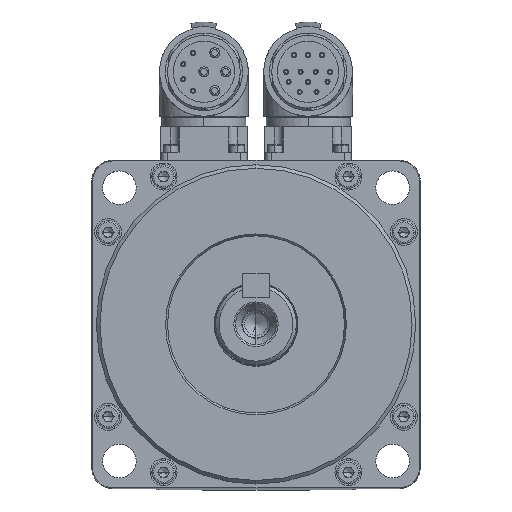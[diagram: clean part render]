
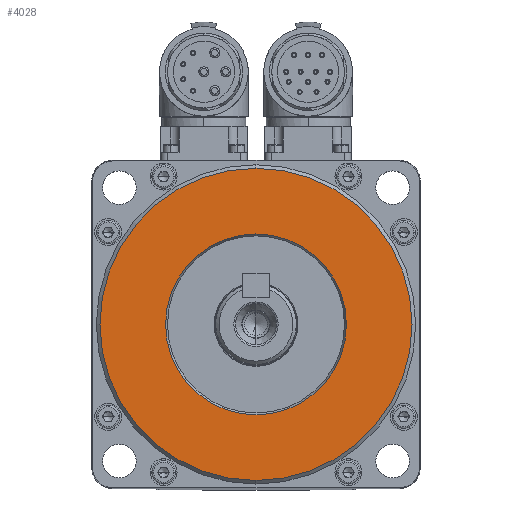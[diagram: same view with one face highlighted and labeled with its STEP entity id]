
A CAD part, top view. The second image highlights one B-rep face of the part: STEP entity #4028.
In plain terms, the highlighted planar face has unit normal (0, 0, 1).
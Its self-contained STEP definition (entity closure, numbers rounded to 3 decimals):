
#3416 = CIRCLE ( 'NONE', #15629, 46.433 ) ;
#4028 = ADVANCED_FACE ( 'NONE', ( #23018, #16016 ), #48908, .F. ) ;
#6019 = DIRECTION ( 'NONE',  ( 0., 1., 0. ) ) ;
#6149 = AXIS2_PLACEMENT_3D ( 'NONE', #28799, #54391, #29441 ) ;
#6222 = DIRECTION ( 'NONE',  ( 0., 1., 0. ) ) ;
#10735 = DIRECTION ( 'NONE',  ( 0., 0., -1. ) ) ;
#10962 = CARTESIAN_POINT ( 'NONE',  ( 0., 0., 75.864 ) ) ;
#12064 = ORIENTED_EDGE ( 'NONE', *, *, #35764, .T. ) ;
#13385 = CIRCLE ( 'NONE', #14805, 26.908 ) ;
#14805 = AXIS2_PLACEMENT_3D ( 'NONE', #21719, #61136, #6222 ) ;
#15618 = CARTESIAN_POINT ( 'NONE',  ( 0., 0., 75.864 ) ) ;
#15629 = AXIS2_PLACEMENT_3D ( 'NONE', #55268, #35102, #40384 ) ;
#15945 = VERTEX_POINT ( 'NONE', #30881 ) ;
#16016 = FACE_BOUND ( 'NONE', #55824, .T. ) ;
#18511 = EDGE_CURVE ( 'NONE', #64038, #37121, #41095, .T. ) ;
#19468 = ORIENTED_EDGE ( 'NONE', *, *, #45655, .T. ) ;
#20811 = DIRECTION ( 'NONE',  ( 0., 1., 0. ) ) ;
#21365 = VERTEX_POINT ( 'NONE', #48849 ) ;
#21719 = CARTESIAN_POINT ( 'NONE',  ( 0., 0., 75.864 ) ) ;
#23018 = FACE_OUTER_BOUND ( 'NONE', #41644, .T. ) ;
#25668 = DIRECTION ( 'NONE',  ( 0., 0., 1. ) ) ;
#26359 = EDGE_CURVE ( 'NONE', #37121, #64038, #13385, .T. ) ;
#28799 = CARTESIAN_POINT ( 'NONE',  ( 0., 0., 75.864 ) ) ;
#29441 = DIRECTION ( 'NONE',  ( 0., 1., 0. ) ) ;
#30881 = CARTESIAN_POINT ( 'NONE',  ( 0., -46.433, 75.864 ) ) ;
#30933 = CARTESIAN_POINT ( 'NONE',  ( 0., -26.908, 75.864 ) ) ;
#34293 = AXIS2_PLACEMENT_3D ( 'NONE', #10962, #10735, #20811 ) ;
#35102 = DIRECTION ( 'NONE',  ( 0., 0., 1. ) ) ;
#35764 = EDGE_CURVE ( 'NONE', #21365, #15945, #46562, .T. ) ;
#37121 = VERTEX_POINT ( 'NONE', #30933 ) ;
#37385 = ORIENTED_EDGE ( 'NONE', *, *, #26359, .T. ) ;
#40384 = DIRECTION ( 'NONE',  ( 0., 1., 0. ) ) ;
#41095 = CIRCLE ( 'NONE', #34293, 26.908 ) ;
#41644 = EDGE_LOOP ( 'NONE', ( #12064, #19468 ) ) ;
#45655 = EDGE_CURVE ( 'NONE', #15945, #21365, #3416, .T. ) ;
#46562 = CIRCLE ( 'NONE', #64010, 46.433 ) ;
#48849 = CARTESIAN_POINT ( 'NONE',  ( 0., 46.433, 75.864 ) ) ;
#48908 = PLANE ( 'NONE',  #6149 ) ;
#54391 = DIRECTION ( 'NONE',  ( 0., 0., -1. ) ) ;
#54484 = CARTESIAN_POINT ( 'NONE',  ( 0., 26.908, 75.864 ) ) ;
#55268 = CARTESIAN_POINT ( 'NONE',  ( 0., 0., 75.864 ) ) ;
#55824 = EDGE_LOOP ( 'NONE', ( #37385, #58834 ) ) ;
#58834 = ORIENTED_EDGE ( 'NONE', *, *, #18511, .T. ) ;
#61136 = DIRECTION ( 'NONE',  ( 0., 0., -1. ) ) ;
#64010 = AXIS2_PLACEMENT_3D ( 'NONE', #15618, #25668, #6019 ) ;
#64038 = VERTEX_POINT ( 'NONE', #54484 ) ;
